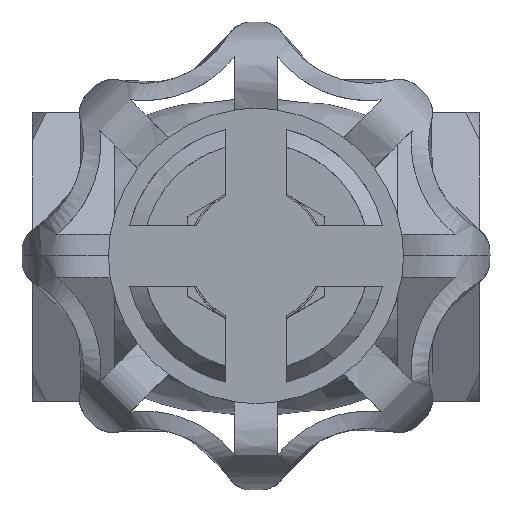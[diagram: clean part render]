
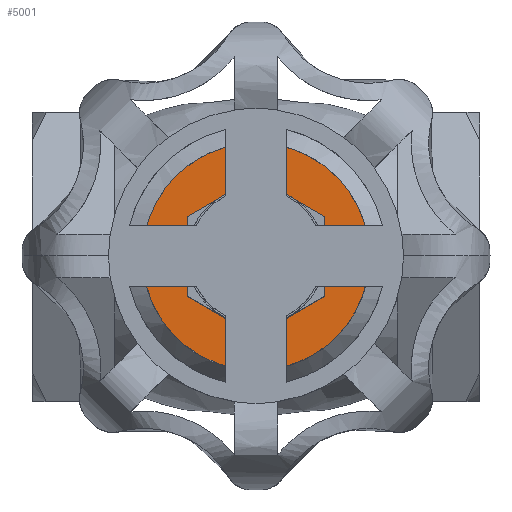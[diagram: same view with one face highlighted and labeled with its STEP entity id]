
A CAD part, top view. The second image highlights one B-rep face of the part: STEP entity #5001.
In plain terms, the highlighted free-form (B-spline) face has degree [1, 1] with [2, 2] control points.
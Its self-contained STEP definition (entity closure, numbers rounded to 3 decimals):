
#983=CARTESIAN_POINT('',(-11.982,11.344,28.751));
#984=VERTEX_POINT('',#983);
#985=CARTESIAN_POINT('',(0.,16.5,28.751));
#986=VERTEX_POINT('',#985);
#987=CARTESIAN_POINT('',(-11.982,11.344,28.751));
#988=CARTESIAN_POINT('',(-11.31,12.054,28.751));
#989=CARTESIAN_POINT('',(-10.075,13.145,28.751));
#990=CARTESIAN_POINT('',(-7.696,14.686,28.751));
#991=CARTESIAN_POINT('',(-5.373,15.685,28.751));
#992=CARTESIAN_POINT('',(-2.619,16.354,28.751));
#993=CARTESIAN_POINT('',(-0.978,16.5,28.751));
#994=CARTESIAN_POINT('',(0.,16.5,28.751));
#995=B_SPLINE_CURVE_WITH_KNOTS('',3,(#987,#988,#989,#990,#991,#992,#993,#994),.UNSPECIFIED.,.F.,.U.,(4,1,1,1,1,4),(0.,2.933,4.924,8.486,10.477,13.41),.UNSPECIFIED.);
#996=EDGE_CURVE('',#984,#986,#995,.T.);
#998=CARTESIAN_POINT('',(16.5,0.,28.751));
#999=VERTEX_POINT('',#998);
#1000=CARTESIAN_POINT('',(0.,16.5,28.751));
#1001=CARTESIAN_POINT('',(1.046,16.5,28.751));
#1002=CARTESIAN_POINT('',(2.733,16.339,28.751));
#1003=CARTESIAN_POINT('',(5.453,15.649,28.751));
#1004=CARTESIAN_POINT('',(7.944,14.572,28.751));
#1005=CARTESIAN_POINT('',(10.356,12.939,28.751));
#1006=CARTESIAN_POINT('',(12.151,11.241,28.751));
#1007=CARTESIAN_POINT('',(13.778,9.208,28.751));
#1008=CARTESIAN_POINT('',(15.249,6.612,28.751));
#1009=CARTESIAN_POINT('',(16.274,3.375,28.751));
#1010=CARTESIAN_POINT('',(16.5,1.08,28.751));
#1011=CARTESIAN_POINT('',(16.5,0.,28.751));
#1012=B_SPLINE_CURVE_WITH_KNOTS('',3,(#1000,#1001,#1002,#1003,#1004,#1005,#1006,#1007,#1008,#1009,#1010,#1011),.UNSPECIFIED.,.F.,.U.,(4,1,1,1,1,1,1,1,1,4),(0.,3.139,5.062,8.403,11.238,13.769,15.794,19.034,22.678,25.918),.UNSPECIFIED.);
#1013=EDGE_CURVE('',#986,#999,#1012,.T.);
#1015=CARTESIAN_POINT('',(11.982,-11.344,28.751));
#1016=VERTEX_POINT('',#1015);
#1017=CARTESIAN_POINT('',(16.5,0.,28.751));
#1018=CARTESIAN_POINT('',(16.501,-1.498,28.751));
#1019=CARTESIAN_POINT('',(16.151,-4.039,28.751));
#1020=CARTESIAN_POINT('',(14.988,-7.062,28.751));
#1021=CARTESIAN_POINT('',(13.649,-9.379,28.751));
#1022=CARTESIAN_POINT('',(12.631,-10.658,28.751));
#1023=CARTESIAN_POINT('',(11.982,-11.344,28.751));
#1024=B_SPLINE_CURVE_WITH_KNOTS('',3,(#1017,#1018,#1019,#1020,#1021,#1022,#1023),.UNSPECIFIED.,.F.,.U.,(4,1,1,1,4),(0.,4.495,7.622,9.674,12.508),.UNSPECIFIED.);
#1025=EDGE_CURVE('',#999,#1016,#1024,.T.);
#1185=CARTESIAN_POINT('',(-16.5,0.,28.751));
#1186=VERTEX_POINT('',#1185);
#1187=CARTESIAN_POINT('',(-16.5,0.,28.751));
#1188=CARTESIAN_POINT('',(-16.5,0.945,28.751));
#1189=CARTESIAN_POINT('',(-16.36,2.573,28.751));
#1190=CARTESIAN_POINT('',(-15.845,4.732,28.751));
#1191=CARTESIAN_POINT('',(-15.131,6.694,28.751));
#1192=CARTESIAN_POINT('',(-13.962,8.957,28.751));
#1193=CARTESIAN_POINT('',(-12.766,10.516,28.751));
#1194=CARTESIAN_POINT('',(-11.982,11.344,28.751));
#1195=B_SPLINE_CURVE_WITH_KNOTS('',3,(#1187,#1188,#1189,#1190,#1191,#1192,#1193,#1194),.UNSPECIFIED.,.F.,.U.,(4,1,1,1,1,4),(0.,2.834,4.886,6.645,9.088,12.508),.UNSPECIFIED.);
#1196=EDGE_CURVE('',#1186,#984,#1195,.T.);
#1321=CARTESIAN_POINT('',(0.,-16.5,28.751));
#1322=VERTEX_POINT('',#1321);
#1323=CARTESIAN_POINT('',(11.982,-11.344,28.751));
#1324=CARTESIAN_POINT('',(11.286,-12.079,28.751));
#1325=CARTESIAN_POINT('',(10.047,-13.167,28.751));
#1326=CARTESIAN_POINT('',(7.929,-14.529,28.751));
#1327=CARTESIAN_POINT('',(5.927,-15.459,28.751));
#1328=CARTESIAN_POINT('',(3.213,-16.275,28.751));
#1329=CARTESIAN_POINT('',(1.257,-16.5,28.751));
#1330=CARTESIAN_POINT('',(0.,-16.5,28.751));
#1331=B_SPLINE_CURVE_WITH_KNOTS('',3,(#1323,#1324,#1325,#1326,#1327,#1328,#1329,#1330),.UNSPECIFIED.,.F.,.U.,(4,1,1,1,1,4),(0.,3.038,4.924,7.543,9.639,13.41),.UNSPECIFIED.);
#1332=EDGE_CURVE('',#1016,#1322,#1331,.T.);
#1334=CARTESIAN_POINT('',(0.,-16.5,28.751));
#1335=CARTESIAN_POINT('',(-6.835,-16.5,28.751));
#1336=CARTESIAN_POINT('',(-11.667,-11.667,28.751));
#1337=CARTESIAN_POINT('',(-16.5,-6.835,28.751));
#1338=CARTESIAN_POINT('',(-16.5,0.,28.751));
#1346=(BOUNDED_CURVE()B_SPLINE_CURVE(2,(#1334,#1335,#1336,#1337,#1338),.UNSPECIFIED.,.F.,.U.)B_SPLINE_CURVE_WITH_KNOTS((3,2,3),(0.,0.5,1.),.UNSPECIFIED.)CURVE()GEOMETRIC_REPRESENTATION_ITEM()RATIONAL_B_SPLINE_CURVE((1.,0.924,1.,0.924,1.))REPRESENTATION_ITEM(''));
#1347=EDGE_CURVE('',#1322,#1186,#1346,.T.);
#4944=CARTESIAN_POINT('',(18.148,-18.148,28.751));
#4945=CARTESIAN_POINT('',(-18.148,-18.148,28.751));
#4946=CARTESIAN_POINT('',(18.148,18.148,28.751));
#4947=CARTESIAN_POINT('',(-18.148,18.148,28.751));
#4948=B_SPLINE_SURFACE_WITH_KNOTS('',1,1,((#4944,#4946),(#4945,#4947)),.UNSPECIFIED.,.F.,.F.,.U.,(2,2),(2,2),(0.,36.297),(0.,36.297),.UNSPECIFIED.);
#4949=ORIENTED_EDGE('',*,*,#1347,.F.);
#4950=ORIENTED_EDGE('',*,*,#1332,.F.);
#4951=ORIENTED_EDGE('',*,*,#1025,.F.);
#4952=ORIENTED_EDGE('',*,*,#1013,.F.);
#4953=ORIENTED_EDGE('',*,*,#996,.F.);
#4954=ORIENTED_EDGE('',*,*,#1196,.F.);
#4955=EDGE_LOOP('',(#4949,#4950,#4951,#4952,#4953,#4954));
#4956=FACE_OUTER_BOUND('',#4955,.T.);
#4957=CARTESIAN_POINT('',(0.,-11.547,28.751));
#4958=VERTEX_POINT('',#4957);
#4959=CARTESIAN_POINT('',(10.,-5.774,28.751));
#4960=VERTEX_POINT('',#4959);
#4961=CARTESIAN_POINT('',(0.,-11.547,28.751));
#4962=CARTESIAN_POINT('',(10.,-5.774,28.751));
#4963=QUASI_UNIFORM_CURVE('',1,(#4961,#4962),.UNSPECIFIED.,.F.,.U.);
#4964=EDGE_CURVE('',#4958,#4960,#4963,.T.);
#4965=ORIENTED_EDGE('',*,*,#4964,.F.);
#4966=CARTESIAN_POINT('',(-10.,-5.774,28.751));
#4967=VERTEX_POINT('',#4966);
#4968=CARTESIAN_POINT('',(-10.,-5.774,28.751));
#4969=CARTESIAN_POINT('',(0.,-11.547,28.751));
#4970=QUASI_UNIFORM_CURVE('',1,(#4968,#4969),.UNSPECIFIED.,.F.,.U.);
#4971=EDGE_CURVE('',#4967,#4958,#4970,.T.);
#4972=ORIENTED_EDGE('',*,*,#4971,.F.);
#4973=CARTESIAN_POINT('',(-10.,5.774,28.751));
#4974=VERTEX_POINT('',#4973);
#4975=CARTESIAN_POINT('',(-10.,5.774,28.751));
#4976=CARTESIAN_POINT('',(-10.,-5.774,28.751));
#4977=QUASI_UNIFORM_CURVE('',1,(#4975,#4976),.UNSPECIFIED.,.F.,.U.);
#4978=EDGE_CURVE('',#4974,#4967,#4977,.T.);
#4979=ORIENTED_EDGE('',*,*,#4978,.F.);
#4980=CARTESIAN_POINT('',(0.,11.547,28.751));
#4981=VERTEX_POINT('',#4980);
#4982=CARTESIAN_POINT('',(0.,11.547,28.751));
#4983=CARTESIAN_POINT('',(-10.,5.774,28.751));
#4984=QUASI_UNIFORM_CURVE('',1,(#4982,#4983),.UNSPECIFIED.,.F.,.U.);
#4985=EDGE_CURVE('',#4981,#4974,#4984,.T.);
#4986=ORIENTED_EDGE('',*,*,#4985,.F.);
#4987=CARTESIAN_POINT('',(10.,5.774,28.751));
#4988=VERTEX_POINT('',#4987);
#4989=CARTESIAN_POINT('',(10.,5.774,28.751));
#4990=CARTESIAN_POINT('',(0.,11.547,28.751));
#4991=QUASI_UNIFORM_CURVE('',1,(#4989,#4990),.UNSPECIFIED.,.F.,.U.);
#4992=EDGE_CURVE('',#4988,#4981,#4991,.T.);
#4993=ORIENTED_EDGE('',*,*,#4992,.F.);
#4994=CARTESIAN_POINT('',(10.,-5.774,28.751));
#4995=CARTESIAN_POINT('',(10.,5.774,28.751));
#4996=QUASI_UNIFORM_CURVE('',1,(#4994,#4995),.UNSPECIFIED.,.F.,.U.);
#4997=EDGE_CURVE('',#4960,#4988,#4996,.T.);
#4998=ORIENTED_EDGE('',*,*,#4997,.F.);
#4999=EDGE_LOOP('',(#4965,#4972,#4979,#4986,#4993,#4998));
#5000=FACE_BOUND('',#4999,.T.);
#5001=ADVANCED_FACE('',(#4956,#5000),#4948,.F.);
